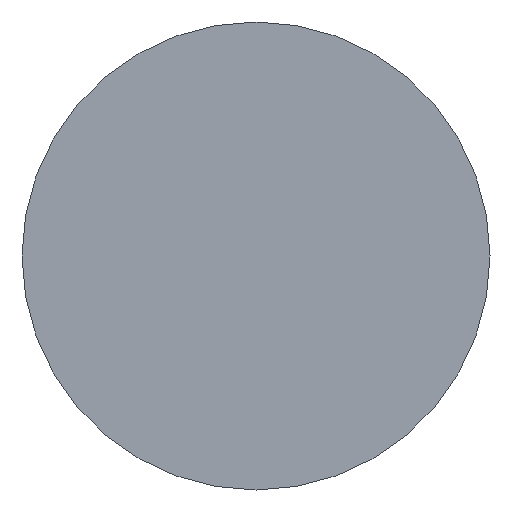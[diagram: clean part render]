
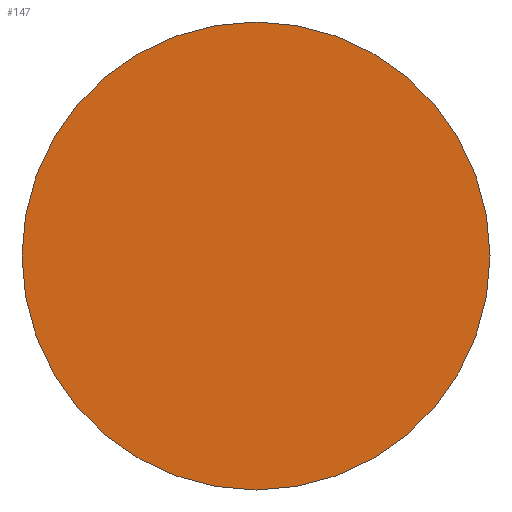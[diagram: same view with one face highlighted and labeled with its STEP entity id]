
A CAD part, left-side view. The second image highlights one B-rep face of the part: STEP entity #147.
In plain terms, the highlighted planar face has unit normal (-1, 0, 0).
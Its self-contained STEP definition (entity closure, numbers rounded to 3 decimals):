
#3 = ORIENTED_EDGE ( 'NONE', *, *, #263, .F. ) ;
#21 = VERTEX_POINT ( 'NONE', #246 ) ;
#26 = AXIS2_PLACEMENT_3D ( 'NONE', #65, #99, #203 ) ;
#30 = FACE_OUTER_BOUND ( 'NONE', #207, .T. ) ;
#51 = DIRECTION ( 'NONE',  ( 1., 0., 0. ) ) ;
#62 = ORIENTED_EDGE ( 'NONE', *, *, #249, .F. ) ;
#65 = CARTESIAN_POINT ( 'NONE',  ( 0., 0., 0. ) ) ;
#91 = PLANE ( 'NONE',  #26 ) ;
#93 = DIRECTION ( 'NONE',  ( 1., 0., 0. ) ) ;
#99 = DIRECTION ( 'NONE',  ( -1., 0., 0. ) ) ;
#130 = CARTESIAN_POINT ( 'NONE',  ( 0., 4., 0. ) ) ;
#147 = ADVANCED_FACE ( 'NONE', ( #30 ), #91, .T. ) ;
#152 = AXIS2_PLACEMENT_3D ( 'NONE', #167, #93, #245 ) ;
#167 = CARTESIAN_POINT ( 'NONE',  ( 0., 0., 0. ) ) ;
#186 = DIRECTION ( 'NONE',  ( 0., 1., 0. ) ) ;
#200 = CARTESIAN_POINT ( 'NONE',  ( 0., 0., 0. ) ) ;
#203 = DIRECTION ( 'NONE',  ( 0., -1., 0. ) ) ;
#207 = EDGE_LOOP ( 'NONE', ( #3, #62 ) ) ;
#217 = CIRCLE ( 'NONE', #239, 4. ) ;
#239 = AXIS2_PLACEMENT_3D ( 'NONE', #200, #51, #186 ) ;
#245 = DIRECTION ( 'NONE',  ( 0., 1., 0. ) ) ;
#246 = CARTESIAN_POINT ( 'NONE',  ( 0., -4., 0. ) ) ;
#249 = EDGE_CURVE ( 'NONE', #21, #252, #217, .T. ) ;
#252 = VERTEX_POINT ( 'NONE', #130 ) ;
#263 = EDGE_CURVE ( 'NONE', #252, #21, #268, .T. ) ;
#268 = CIRCLE ( 'NONE', #152, 4. ) ;
